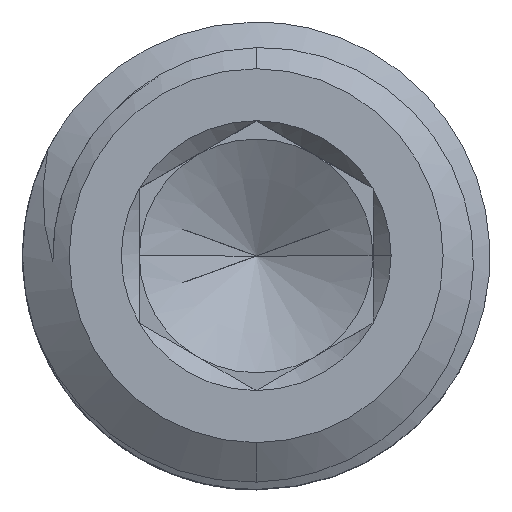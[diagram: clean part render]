
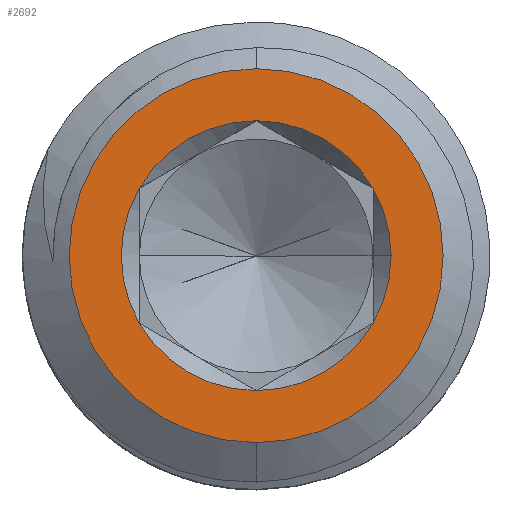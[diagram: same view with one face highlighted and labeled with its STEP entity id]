
A CAD part, top view. The second image highlights one B-rep face of the part: STEP entity #2692.
In plain terms, the highlighted planar face has unit normal (0, 0, 1).
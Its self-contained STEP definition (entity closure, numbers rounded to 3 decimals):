
#8 = FACE_OUTER_BOUND ( 'NONE', #2353, .T. ) ;
#60 = AXIS2_PLACEMENT_3D ( 'NONE', #2530, #1297, #1064 ) ;
#64 = AXIS2_PLACEMENT_3D ( 'NONE', #2630, #1426, #2824 ) ;
#87 = VERTEX_POINT ( 'NONE', #2400 ) ;
#107 = CARTESIAN_POINT ( 'NONE',  ( 2.5, -1.443, 4.177 ) ) ;
#116 = CIRCLE ( 'NONE', #2114, 2.887 ) ;
#179 = ORIENTED_EDGE ( 'NONE', *, *, #2244, .F. ) ;
#325 = CARTESIAN_POINT ( 'NONE',  ( 0., 0., 4.177 ) ) ;
#392 = CARTESIAN_POINT ( 'NONE',  ( 0., 0., 4.177 ) ) ;
#422 = EDGE_CURVE ( 'NONE', #1601, #2947, #724, .T. ) ;
#436 = CIRCLE ( 'NONE', #1084, 4. ) ;
#450 = EDGE_LOOP ( 'NONE', ( #597, #1125, #545, #1110, #2924, #179, #1818 ) ) ;
#545 = ORIENTED_EDGE ( 'NONE', *, *, #1010, .F. ) ;
#597 = ORIENTED_EDGE ( 'NONE', *, *, #2145, .F. ) ;
#599 = DIRECTION ( 'NONE',  ( 1., 0., 0. ) ) ;
#610 = CARTESIAN_POINT ( 'NONE',  ( 0., -4., 4.177 ) ) ;
#724 = CIRCLE ( 'NONE', #2056, 4. ) ;
#804 = DIRECTION ( 'NONE',  ( 0., 0., 1. ) ) ;
#869 = VERTEX_POINT ( 'NONE', #2690 ) ;
#881 = DIRECTION ( 'NONE',  ( 1., 0., 0. ) ) ;
#887 = VERTEX_POINT ( 'NONE', #2175 ) ;
#918 = ORIENTED_EDGE ( 'NONE', *, *, #2380, .T. ) ;
#929 = DIRECTION ( 'NONE',  ( 0., 0., 1. ) ) ;
#951 = DIRECTION ( 'NONE',  ( 0., 0., 1. ) ) ;
#965 = CIRCLE ( 'NONE', #64, 2.887 ) ;
#967 = VERTEX_POINT ( 'NONE', #1177 ) ;
#1010 = EDGE_CURVE ( 'NONE', #887, #967, #965, .T. ) ;
#1042 = VERTEX_POINT ( 'NONE', #2150 ) ;
#1064 = DIRECTION ( 'NONE',  ( 1., 0., 0. ) ) ;
#1084 = AXIS2_PLACEMENT_3D ( 'NONE', #325, #1568, #2987 ) ;
#1110 = ORIENTED_EDGE ( 'NONE', *, *, #1199, .F. ) ;
#1125 = ORIENTED_EDGE ( 'NONE', *, *, #2616, .F. ) ;
#1133 = DIRECTION ( 'NONE',  ( 0., 0., 1. ) ) ;
#1161 = PLANE ( 'NONE',  #2281 ) ;
#1177 = CARTESIAN_POINT ( 'NONE',  ( 2.5, 1.443, 4.177 ) ) ;
#1199 = EDGE_CURVE ( 'NONE', #1562, #887, #116, .T. ) ;
#1297 = DIRECTION ( 'NONE',  ( 0., 0., 1. ) ) ;
#1366 = CARTESIAN_POINT ( 'NONE',  ( 0., 0., 4.177 ) ) ;
#1372 = CARTESIAN_POINT ( 'NONE',  ( 0., 0., 4.177 ) ) ;
#1411 = DIRECTION ( 'NONE',  ( 0., 0., 1. ) ) ;
#1413 = CIRCLE ( 'NONE', #1563, 2.887 ) ;
#1426 = DIRECTION ( 'NONE',  ( 0., 0., 1. ) ) ;
#1485 = DIRECTION ( 'NONE',  ( 0., 0., 1. ) ) ;
#1540 = CIRCLE ( 'NONE', #2032, 2.887 ) ;
#1562 = VERTEX_POINT ( 'NONE', #107 ) ;
#1563 = AXIS2_PLACEMENT_3D ( 'NONE', #2670, #1485, #2435 ) ;
#1568 = DIRECTION ( 'NONE',  ( 0., 0., 1. ) ) ;
#1601 = VERTEX_POINT ( 'NONE', #2699 ) ;
#1658 = DIRECTION ( 'NONE',  ( 1., 0., 0. ) ) ;
#1725 = AXIS2_PLACEMENT_3D ( 'NONE', #3090, #951, #3039 ) ;
#1765 = EDGE_CURVE ( 'NONE', #87, #1783, #2459, .T. ) ;
#1783 = VERTEX_POINT ( 'NONE', #3000 ) ;
#1801 = DIRECTION ( 'NONE',  ( 0., -1., 0. ) ) ;
#1818 = ORIENTED_EDGE ( 'NONE', *, *, #1765, .F. ) ;
#2032 = AXIS2_PLACEMENT_3D ( 'NONE', #392, #929, #881 ) ;
#2056 = AXIS2_PLACEMENT_3D ( 'NONE', #1372, #1133, #1801 ) ;
#2058 = ORIENTED_EDGE ( 'NONE', *, *, #422, .T. ) ;
#2114 = AXIS2_PLACEMENT_3D ( 'NONE', #1366, #1411, #1658 ) ;
#2121 = DIRECTION ( 'NONE',  ( 0., 1., 0. ) ) ;
#2145 = EDGE_CURVE ( 'NONE', #869, #87, #1413, .T. ) ;
#2150 = CARTESIAN_POINT ( 'NONE',  ( 0., -2.887, 4.177 ) ) ;
#2175 = CARTESIAN_POINT ( 'NONE',  ( 2.887, 0., 4.177 ) ) ;
#2206 = CIRCLE ( 'NONE', #60, 2.887 ) ;
#2244 = EDGE_CURVE ( 'NONE', #1783, #1042, #2206, .T. ) ;
#2281 = AXIS2_PLACEMENT_3D ( 'NONE', #2363, #2844, #2121 ) ;
#2327 = CIRCLE ( 'NONE', #1725, 2.887 ) ;
#2353 = EDGE_LOOP ( 'NONE', ( #2058, #918 ) ) ;
#2363 = CARTESIAN_POINT ( 'NONE',  ( 0., 0., 4.177 ) ) ;
#2377 = FACE_BOUND ( 'NONE', #450, .T. ) ;
#2380 = EDGE_CURVE ( 'NONE', #2947, #1601, #436, .T. ) ;
#2400 = CARTESIAN_POINT ( 'NONE',  ( -2.5, 1.443, 4.177 ) ) ;
#2435 = DIRECTION ( 'NONE',  ( 1., 0., 0. ) ) ;
#2459 = CIRCLE ( 'NONE', #2610, 2.887 ) ;
#2530 = CARTESIAN_POINT ( 'NONE',  ( 0., 0., 4.177 ) ) ;
#2610 = AXIS2_PLACEMENT_3D ( 'NONE', #2954, #804, #599 ) ;
#2616 = EDGE_CURVE ( 'NONE', #967, #869, #2327, .T. ) ;
#2630 = CARTESIAN_POINT ( 'NONE',  ( 0., 0., 4.177 ) ) ;
#2670 = CARTESIAN_POINT ( 'NONE',  ( 0., 0., 4.177 ) ) ;
#2690 = CARTESIAN_POINT ( 'NONE',  ( 0., 2.887, 4.177 ) ) ;
#2692 = ADVANCED_FACE ( 'NONE', ( #2377, #8 ), #1161, .F. ) ;
#2699 = CARTESIAN_POINT ( 'NONE',  ( 0., 4., 4.177 ) ) ;
#2824 = DIRECTION ( 'NONE',  ( 1., 0., 0. ) ) ;
#2844 = DIRECTION ( 'NONE',  ( 0., 0., -1. ) ) ;
#2924 = ORIENTED_EDGE ( 'NONE', *, *, #3059, .F. ) ;
#2947 = VERTEX_POINT ( 'NONE', #610 ) ;
#2954 = CARTESIAN_POINT ( 'NONE',  ( 0., 0., 4.177 ) ) ;
#2987 = DIRECTION ( 'NONE',  ( 0., -1., 0. ) ) ;
#3000 = CARTESIAN_POINT ( 'NONE',  ( -2.5, -1.443, 4.177 ) ) ;
#3039 = DIRECTION ( 'NONE',  ( 1., 0., 0. ) ) ;
#3059 = EDGE_CURVE ( 'NONE', #1042, #1562, #1540, .T. ) ;
#3090 = CARTESIAN_POINT ( 'NONE',  ( 0., 0., 4.177 ) ) ;
